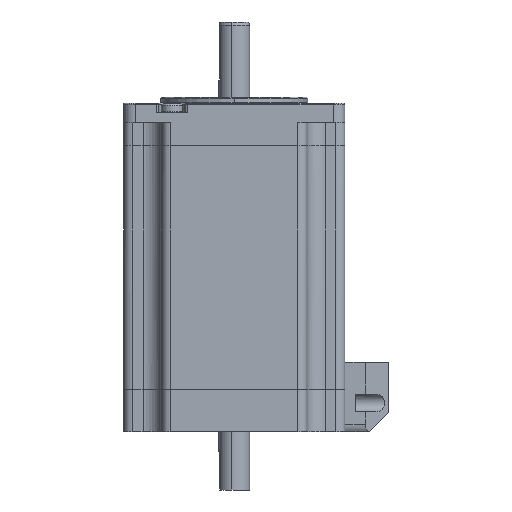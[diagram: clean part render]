
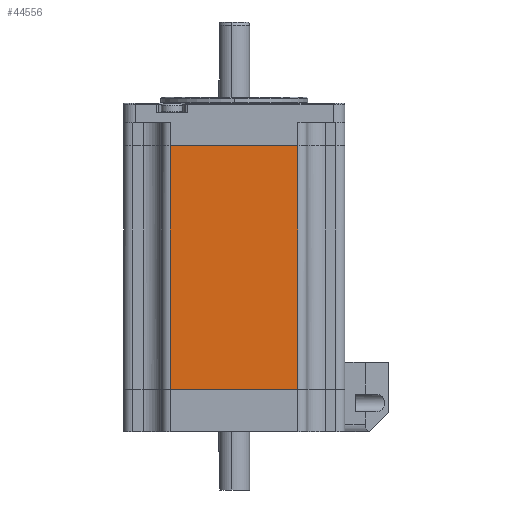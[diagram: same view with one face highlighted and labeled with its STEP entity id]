
A CAD part, left-side view. The second image highlights one B-rep face of the part: STEP entity #44556.
In plain terms, the highlighted planar face has unit normal (-1, 0, 0).
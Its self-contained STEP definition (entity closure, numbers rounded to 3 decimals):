
#974 = CARTESIAN_POINT ( 'NONE',  ( -28.6, -16.5, 26.5 ) ) ;
#1301 = EDGE_CURVE ( 'NONE', #39398, #5936, #64739, .T. ) ;
#5936 = VERTEX_POINT ( 'NONE', #27408 ) ;
#10214 = DIRECTION ( 'NONE',  ( 0., 0., -1. ) ) ;
#13492 = ORIENTED_EDGE ( 'NONE', *, *, #14587, .F. ) ;
#14568 = CARTESIAN_POINT ( 'NONE',  ( -28.6, 16.5, 26.5 ) ) ;
#14587 = EDGE_CURVE ( 'NONE', #5936, #63169, #44050, .T. ) ;
#18680 = ORIENTED_EDGE ( 'NONE', *, *, #53860, .F. ) ;
#24669 = DIRECTION ( 'NONE',  ( 0., 0., 1. ) ) ;
#25401 = CARTESIAN_POINT ( 'NONE',  ( -28.6, -16.5, 26.5 ) ) ;
#26716 = DIRECTION ( 'NONE',  ( 1., 0., 0. ) ) ;
#27408 = CARTESIAN_POINT ( 'NONE',  ( -28.6, 16.5, -36.5 ) ) ;
#27467 = ORIENTED_EDGE ( 'NONE', *, *, #33809, .F. ) ;
#28301 = EDGE_LOOP ( 'NONE', ( #34824, #27467, #18680, #13492 ) ) ;
#31378 = CARTESIAN_POINT ( 'NONE',  ( -28.6, -16.5, 26.5 ) ) ;
#31523 = CARTESIAN_POINT ( 'NONE',  ( -28.6, -23.55, -36.5 ) ) ;
#33809 = EDGE_CURVE ( 'NONE', #50946, #39398, #60498, .T. ) ;
#34824 = ORIENTED_EDGE ( 'NONE', *, *, #1301, .F. ) ;
#35287 = VECTOR ( 'NONE', #46175, 1000. ) ;
#38594 = VECTOR ( 'NONE', #24669, 1000. ) ;
#39398 = VERTEX_POINT ( 'NONE', #56042 ) ;
#43479 = VECTOR ( 'NONE', #61439, 1000. ) ;
#44050 = LINE ( 'NONE', #14568, #38594 ) ;
#44556 = ADVANCED_FACE ( 'NONE', ( #60395 ), #62118, .F. ) ;
#46175 = DIRECTION ( 'NONE',  ( 0., -1., 0. ) ) ;
#49260 = AXIS2_PLACEMENT_3D ( 'NONE', #62335, #26716, #51747 ) ;
#50946 = VERTEX_POINT ( 'NONE', #31378 ) ;
#51747 = DIRECTION ( 'NONE',  ( 0., 0., -1. ) ) ;
#53860 = EDGE_CURVE ( 'NONE', #63169, #50946, #59733, .T. ) ;
#56042 = CARTESIAN_POINT ( 'NONE',  ( -28.6, -16.5, -36.5 ) ) ;
#59733 = LINE ( 'NONE', #974, #35287 ) ;
#60395 = FACE_OUTER_BOUND ( 'NONE', #28301, .T. ) ;
#60498 = LINE ( 'NONE', #25401, #63635 ) ;
#61439 = DIRECTION ( 'NONE',  ( 0., 1., 0. ) ) ;
#62118 = PLANE ( 'NONE',  #49260 ) ;
#62335 = CARTESIAN_POINT ( 'NONE',  ( -28.6, -16.5, 26.5 ) ) ;
#63169 = VERTEX_POINT ( 'NONE', #64762 ) ;
#63635 = VECTOR ( 'NONE', #10214, 1000. ) ;
#64739 = LINE ( 'NONE', #31523, #43479 ) ;
#64762 = CARTESIAN_POINT ( 'NONE',  ( -28.6, 16.5, 26.5 ) ) ;
